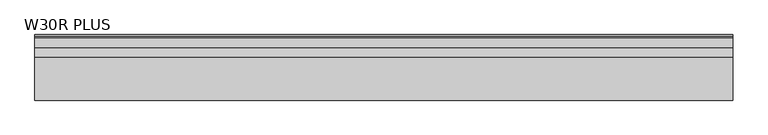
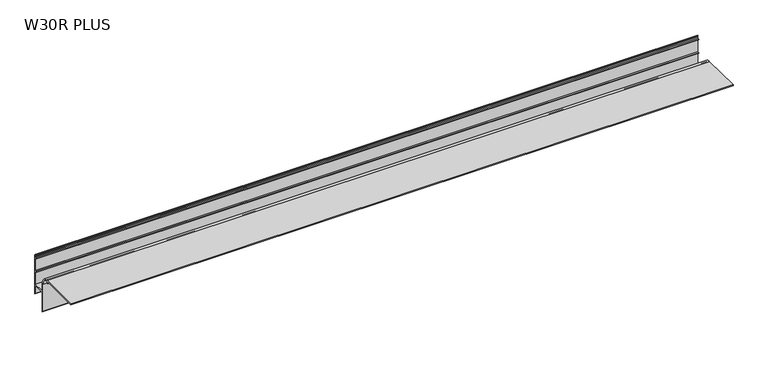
"""IFC4 building model written with IfcOpenShell, lengths in millimetres: proxy geometry, W30R PLUS Profil okapowy prosty z rynną : W30R PLUS."""

import ifcopenshell
import ifcopenshell.guid

model = None  # the IFC model being written
_history = None  # IfcOwnerHistory: only IFC2X3 demands one
_inside = {}  # id of a spatial element -> (the spatial element, [elements in it])
_under = {}  # id of a project, library or spatial element -> (it, [spatial elements below it])
_declared = {}  # id of a project -> (the project, [libraries it declares])
_typed = {}  # id of a type object -> (the type object, [elements of that type])
_made_of = {}  # id of a material, layer set ... -> (it, [elements and type objects made of it])


def new_model(schema):
    """Start an empty IFC model of exactly this schema.

    Asked for "IFC4X3", IfcOpenShell would pick the latest addendum, in which some entities
    have other attributes; the version numbers below select the first issue.
    IFC2X3 requires an IfcOwnerHistory on every rooted entity: one is made here for all.
    """
    global model, _history
    if schema == "IFC4X3":
        model = ifcopenshell.file(schema_version=(4, 3, 0, 0))
    else:
        model = ifcopenshell.file(schema=schema)
    _inside.clear()
    _under.clear()
    _declared.clear()
    _typed.clear()
    _made_of.clear()
    _history = None
    if model.schema == "IFC2X3":
        org = make("IfcOrganization", Name="unknown")
        user = make(
            "IfcPersonAndOrganization",
            ThePerson=make("IfcPerson", FamilyName="unknown"),
            TheOrganization=org,
        )
        app = make(
            "IfcApplication",
            ApplicationDeveloper=org,
            Version="unknown",
            ApplicationFullName="unknown",
            ApplicationIdentifier="unknown",
        )
        _history = make(
            "IfcOwnerHistory",
            OwningUser=user,
            OwningApplication=app,
            ChangeAction="ADDED",
            CreationDate=0,
        )
    return model


def make(cls, **values):
    """One entity of the class cls with the attributes given. An attribute that is None is left unset."""
    return model.create_entity(
        cls, **{name: value for name, value in values.items() if value is not None}
    )


def rooted(cls, **values):
    """An entity with a GlobalId (a new one), such as an element, a storey or a relation."""
    return make(cls, GlobalId=ifcopenshell.guid.new(), OwnerHistory=_history, **values)


def si_unit(unit_type, name, prefix=None):
    """IfcSIUnit, for example si_unit("LENGTHUNIT", "METRE", prefix="MILLI")."""
    return make("IfcSIUnit", UnitType=unit_type, Prefix=prefix, Name=name)


def assignment(units):
    """IfcUnitAssignment: the units of a project."""
    return None if units is None else make("IfcUnitAssignment", Units=units)


def point(xyz):
    """IfcCartesianPoint."""
    return None if xyz is None else make("IfcCartesianPoint", Coordinates=xyz)


def direction(xyz):
    """IfcDirection."""
    return None if xyz is None else make("IfcDirection", DirectionRatios=xyz)


def frame(location, z_axis=None, x_axis=None):
    """IfcAxis2Placement3D, a coordinate frame: its origin and axes. An axis left out is left unset."""
    return make(
        "IfcAxis2Placement3D",
        Location=point(location),
        Axis=direction(z_axis),
        RefDirection=direction(x_axis),
    )


def frame_2d(location, x_axis=None):
    """IfcAxis2Placement2D, a coordinate frame in the plane: its origin and x axis."""
    return make(
        "IfcAxis2Placement2D", Location=point(location), RefDirection=direction(x_axis)
    )


def origin():
    """The frame at (0, 0, 0) with its axes left unset."""
    return frame((0.0, 0.0, 0.0))


def place(relative_to, where):
    """IfcLocalPlacement: puts the frame where relative to a parent placement (None: the world)."""
    return make(
        "IfcLocalPlacement", PlacementRelTo=relative_to, RelativePlacement=where
    )


def context(
    kind, dimensions, precision=None, world=None, true_north=None, identifier=None
):
    """IfcGeometricRepresentationContext, for example the 3D "Model" context."""
    return make(
        "IfcGeometricRepresentationContext",
        ContextIdentifier=identifier,
        ContextType=kind,
        CoordinateSpaceDimension=dimensions,
        Precision=precision,
        WorldCoordinateSystem=world,
        TrueNorth=true_north,
    )


def project(units=None, contexts=None):
    """IfcProject with its units and contexts."""
    return rooted(
        "IfcProject",
        Name="project",
        RepresentationContexts=contexts,
        UnitsInContext=assignment(units),
    )


def spatial(cls, under=None, at=None, **own):
    """A site, building, storey or space (cls), placed at a placement, below another one or the project."""
    s = rooted(cls, ObjectPlacement=at, **own)
    if under is not None:
        _under.setdefault(under.id(), (under, []))[1].append(s)
    return s


def polyline(points):
    """IfcPolyline through the points."""
    return make("IfcPolyline", Points=[point(p) for p in points])


def circle_curve(where, radius):
    """IfcCircle in the frame where."""
    return make("IfcCircle", Position=where, Radius=radius)


def trimmed(basis, trim1, trim2, sense, master):
    """IfcTrimmedCurve: the piece of a basis curve between two trims."""
    return make(
        "IfcTrimmedCurve",
        BasisCurve=basis,
        Trim1=trim1,
        Trim2=trim2,
        SenseAgreement=sense,
        MasterRepresentation=master,
    )


def segment(curve, same_sense, transition):
    """IfcCompositeCurveSegment."""
    return make(
        "IfcCompositeCurveSegment",
        Transition=transition,
        SameSense=same_sense,
        ParentCurve=curve,
    )


def composite_curve(segments, self_intersect=None):
    """IfcCompositeCurve: segments joined end to end."""
    return make("IfcCompositeCurve", Segments=segments, SelfIntersect=self_intersect)


def outline(outer, holes=None, kind="AREA"):
    """IfcArbitraryClosedProfileDef: a profile drawn as a closed curve; with holes, ...WithVoids."""
    if holes is None:
        return make("IfcArbitraryClosedProfileDef", ProfileType=kind, OuterCurve=outer)
    return make(
        "IfcArbitraryProfileDefWithVoids",
        ProfileType=kind,
        OuterCurve=outer,
        InnerCurves=holes,
    )


def extrude(swept, where, along, depth):
    """IfcExtrudedAreaSolid: the profile swept, set in the frame where, extruded along a direction by depth."""
    return make(
        "IfcExtrudedAreaSolid",
        SweptArea=swept,
        Position=where,
        ExtrudedDirection=direction(along),
        Depth=depth,
    )


def shape(context_of_items, identifier, shape_type, items):
    """IfcShapeRepresentation: the items that make up one representation, for example the "Body"."""
    return make(
        "IfcShapeRepresentation",
        ContextOfItems=context_of_items,
        RepresentationIdentifier=identifier,
        RepresentationType=shape_type,
        Items=items,
    )


def source(mapping_origin, context_of_items, identifier, shape_type, items):
    """IfcRepresentationMap: a shape defined once, which mapped items show again and again."""
    return make(
        "IfcRepresentationMap",
        MappingOrigin=mapping_origin,
        MappedRepresentation=shape(context_of_items, identifier, shape_type, items),
    )


def transform(
    local_origin,
    x_axis=None,
    y_axis=None,
    z_axis=None,
    scale=None,
    scale2=None,
    scale3=None,
    uniform=True,
):
    """IfcCartesianTransformationOperator3D, or its non-uniform kind. x_axis, y_axis, z_axis: its Axis1, 2, 3."""
    if uniform:
        return make(
            "IfcCartesianTransformationOperator3D",
            Axis1=direction(x_axis),
            Axis2=direction(y_axis),
            LocalOrigin=point(local_origin),
            Scale=scale,
            Axis3=direction(z_axis),
        )
    return make(
        "IfcCartesianTransformationOperator3DnonUniform",
        Axis1=direction(x_axis),
        Axis2=direction(y_axis),
        LocalOrigin=point(local_origin),
        Scale=scale,
        Axis3=direction(z_axis),
        Scale2=scale2,
        Scale3=scale3,
    )


def mapped(mapping_source, mapping_target):
    """IfcMappedItem: shows the shape of a source again, moved by a transform."""
    return make(
        "IfcMappedItem", MappingSource=mapping_source, MappingTarget=mapping_target
    )


def made_of(thing, what):
    """Note that an element or type object is made of a material, layer set ...; save() writes the relation."""
    if what is not None:
        _made_of.setdefault(what.id(), (what, []))[1].append(thing)
    return thing


def element(
    cls,
    number,
    at=None,
    inside=None,
    cuts=None,
    type_object=None,
    material=None,
    context=None,
    identifier="Body",
    shape_type=None,
    held_by="IfcProductDefinitionShape",
    body=None,
    shapes=None,
    **own,
):
    """One element of the class cls, such as IfcWall. Its Tag is "e" and its number.

    at: its placement. inside: the storey or other place that contains it. cuts: it is an
    opening in that element (IfcRelVoidsElement). A single representation is given by context,
    identifier, shape_type and body (its items); several are given by shapes. held_by: the class
    of the entity that holds the representations. save() writes the other relations.
    """
    e = rooted(cls, Tag="e%d" % number, ObjectPlacement=at, **own)
    if body is not None:
        shapes = [shape(context, identifier, shape_type, body)]
    if shapes is not None:
        e.Representation = make(held_by, Representations=shapes)
    if inside is not None:
        _inside.setdefault(inside.id(), (inside, []))[1].append(e)
    if cuts is not None:
        rooted(
            "IfcRelVoidsElement", RelatingBuildingElement=cuts, RelatedOpeningElement=e
        )
    if type_object is not None:
        _typed.setdefault(type_object.id(), (type_object, []))[1].append(e)
    return made_of(e, material)


def aggregate(whole, parts):
    """IfcRelAggregates: a whole, such as a stair, and the parts it consists of."""
    return rooted("IfcRelAggregates", RelatingObject=whole, RelatedObjects=parts)


def save(model, path):
    """Write the relations noted so far, then the file.

    IfcRelAggregates (storeys below a building ...), IfcRelContainedInSpatialStructure (elements
    in a storey), IfcRelDefinesByType, IfcRelAssociatesMaterial and IfcRelDeclares: one each for
    every whole, place, type object, material and project.
    """
    for whole, parts in _under.values():
        aggregate(whole, parts)
    for where, things in _inside.values():
        rooted(
            "IfcRelContainedInSpatialStructure",
            RelatedElements=things,
            RelatingStructure=where,
        )
    for kind, things in _typed.values():
        rooted("IfcRelDefinesByType", RelatedObjects=things, RelatingType=kind)
    for what, things in _made_of.values():
        rooted("IfcRelAssociatesMaterial", RelatedObjects=things, RelatingMaterial=what)
    for by, libraries in _declared.values():
        rooted("IfcRelDeclares", RelatingContext=by, RelatedDefinitions=libraries)
    model.write(path)


def w30r_plus_64295fbf(model_context):
    return source(origin(), model_context, "Body", "SweptSolid", [
        extrude(outline(composite_curve([segment(polyline([(0.0, -1.6974779), (-79.1, -1.6974779), (-79.1, 0.0), (1.5, 0.0)]), True, "CONTINUOUS"), segment(trimmed(circle_curve(frame_2d((1.5, -17.0)), 17.0), [point((1.5, 0.0))], [point((18.5, -17.0))], False, "CARTESIAN"), True, "CONTINUOUS"), segment(polyline([(18.5, -17.0), (18.5, -32.3), (42.0, -32.3), (42.0, -5.3), (38.5, -5.3), (38.5, -3.8), (42.0, -3.8), (42.0, 22.8), (38.5, 22.8), (38.5, 24.3), (41.7, 24.3), (41.7, 27.2077037)]), True, "CONTINUOUS"), segment(trimmed(circle_curve(frame_2d((40.7, 27.2077037)), 1.0), [point((41.7, 27.2077037))], [point((40.7, 28.2077037))], True, "CARTESIAN"), True, "CONTINUOUS"), segment(polyline([(40.7, 28.2077037), (40.7, 30.0077037)]), True, "CONTINUOUS"), segment(trimmed(circle_curve(frame_2d((40.7, 27.2077037)), 2.8), [point((40.7, 30.0077037))], [point((43.5, 27.2077037))], False, "CARTESIAN"), True, "CONTINUOUS"), segment(polyline([(43.5, 27.2077037), (43.5, -53.2278443), (42.0, -51.3622205), (42.0, -34.7), (17.6, -34.7), (17.6, -74.7535534), (16.1, -73.2535534), (16.1, -17.0)]), True, "CONTINUOUS"), segment(trimmed(circle_curve(frame_2d((1.5, -17.0)), 14.6), [point((16.1, -17.0))], [point((1.5, -2.4))], True, "CARTESIAN"), True, "CONTINUOUS"), segment(polyline([(1.5, -2.4), (1.5, -5.7), (0.0, -5.7), (0.0, -1.6974779)]), True, "CONTINUOUS")], self_intersect=False)), frame((0.0, 0.0, 0.0), z_axis=(1.0, 0.0, 0.0), x_axis=(0.0, 1.0, 0.0)), (0.0, 0.0, 1.0), 1305.0),
    ])


if __name__ == "__main__":
    model = new_model("IFC4")
    model_context = context("Model", 3, world=origin())
    ifc_project = project(units=[si_unit("LENGTHUNIT", "METRE", prefix="MILLI")], contexts=[model_context])
    site = spatial("IfcSite", under=ifc_project)
    building = spatial("IfcBuilding", under=site)
    placement = place(None, origin())
    w30r_plus_shape = w30r_plus_64295fbf(model_context)
    element("IfcBuildingElementProxy", 1, Name="W30R PLUS Profil okapowy prosty z rynną : W30R PLUS", ObjectType="W30R PLUS Profil okapowy prosty z rynną : W30R PLUS", at=placement, inside=building, context=model_context, shape_type="MappedRepresentation", body=[
        mapped(w30r_plus_shape, transform((0.0, 0.0, 0.0), x_axis=(1.0, 0.0, 0.0), y_axis=(0.0, 1.0, 0.0), z_axis=(0.0, 0.0, 1.0))),
    ])
    save(model, "model.ifc")
